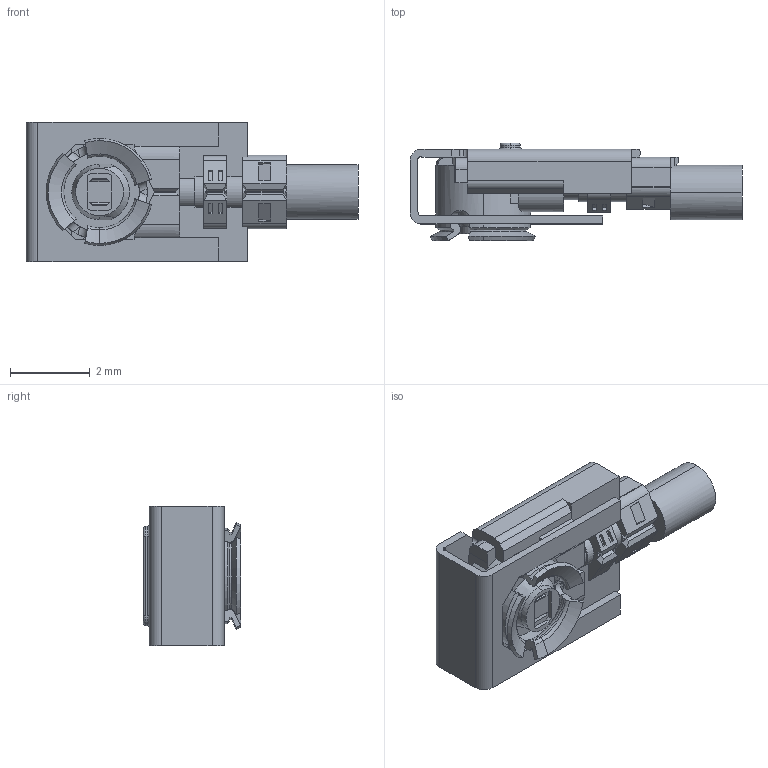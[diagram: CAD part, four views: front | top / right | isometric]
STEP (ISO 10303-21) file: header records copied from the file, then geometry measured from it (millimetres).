
FILE_DESCRIPTION (( 'STEP AP203' ), '1' );
FILE_NAME ('20351-1xxR-37+3376-000xC (LOCK) STEP R8R0 ALL.STEP', '2023-11-06T05:28:24', ( '' ), ( '' ), 'SwSTEP 2.0', 'SolidWorks 2023', '' );
FILE_SCHEMA (( 'CONFIG_CONTROL_DESIGN' ));
Length unit declared in the file: millimetre
Products named in the file (1): 20351-1xxR-37+3376-000xC (LOCK) STEP R8R0 ALL
Bounding box: 8.35 x 2.45 x 3.5 mm (x, y, z)
Volume: 30.3 mm3; surface area: 121.1 mm2
Topology: 1 solids, 1 shells, 312 faces, 865 edges, 561 vertices
Faces by surface type: plane 206, cylinder 73, cone 18, torus 15
Entity records: 10198 total; most frequent: CARTESIAN_POINT 2101, ORIENTED_EDGE 1730, DIRECTION 1615, EDGE_CURVE 865, VECTOR 609, LINE 609, VERTEX_POINT 561, AXIS2_PLACEMENT_3D 503
